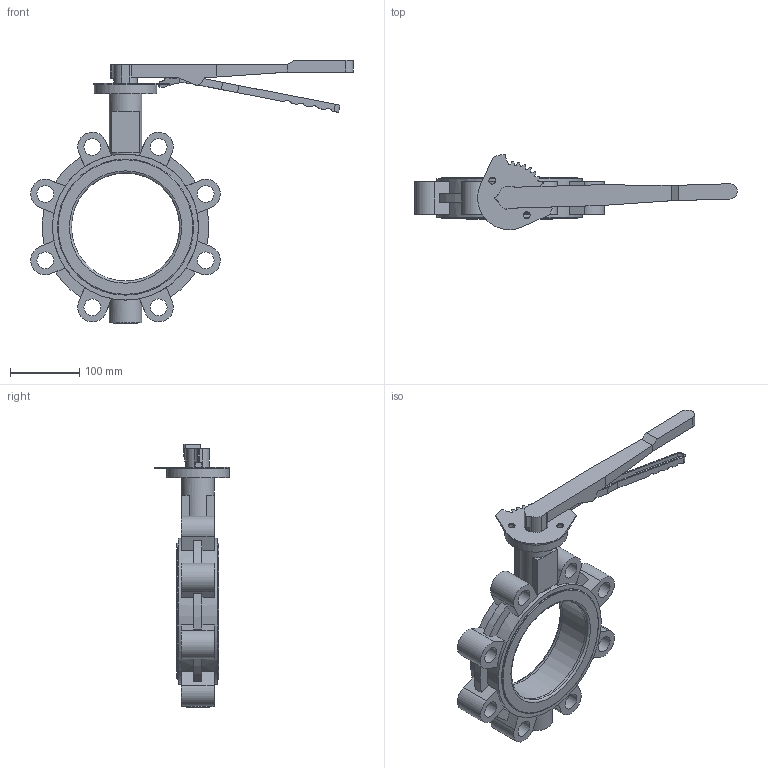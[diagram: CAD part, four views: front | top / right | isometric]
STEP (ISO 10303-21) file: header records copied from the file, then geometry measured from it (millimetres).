
FILE_DESCRIPTION (( 'STEP AP203' ), '1' );
FILE_NAME ('2502 LT型中线衬胶带销 手柄蝶阀 DN150 PN25 CD0309073.STEP', '2026-04-22T01:49:19', ( '' ), ( '' ), 'SwSTEP 2.0', 'SolidWorks 2018', '' );
FILE_SCHEMA (( 'CONFIG_CONTROL_DESIGN' ));
Length unit declared in the file: millimetre
Products named in the file (8): 新型玛钢手柄6寸装配体-立方孔17; GALA-D150-04AZC-00; 新型玛钢手柄4-6寸不锈钢齿盘; 2502 LT型中线衬胶带销 手柄蝶阀 DN150 PN25 CD0309073; 新型玛钢手柄6寸副手柄; 新型玛钢手柄6寸主手柄-立方孔17; GALA-D150-01LC25-00; DIN908 内六角旋塞 M27X2
Assembly tree (7 placements, depth 3):
  2502 LT型中线衬胶带销 手柄蝶阀 DN150 PN25 CD0309073
    GALA-D150-01LC25-00
    GALA-D150-04AZC-00
    DIN908 内六角旋塞 M27X2
    新型玛钢手柄6寸装配体-立方孔17
      新型玛钢手柄6寸主手柄-立方孔17
      新型玛钢手柄4-6寸不锈钢齿盘
      新型玛钢手柄6寸副手柄
Bounding box: 464.33 x 108.44 x 379 mm (x, y, z)
Volume: 1805052.4 mm3; surface area: 378726.4 mm2
Topology: 6 solids, 6 shells, 312 faces, 845 edges, 551 vertices
Faces by surface type: plane 174, cylinder 119, cone 11, torus 8
Full cylindrical faces by diameter (mm): 10 x6, 23.8 x1, 24 x8, 27 x1, 30 x1, 34 x1, 47 x2, 90 x1, 155.474 x1, 164 x2, 196 x4, 210 x2
Entity records: 10610 total; most frequent: CARTESIAN_POINT 1898, DIRECTION 1680, ORIENTED_EDGE 1580, EDGE_CURVE 790, AXIS2_PLACEMENT_3D 597, VERTEX_POINT 545, LINE 486, VECTOR 486
